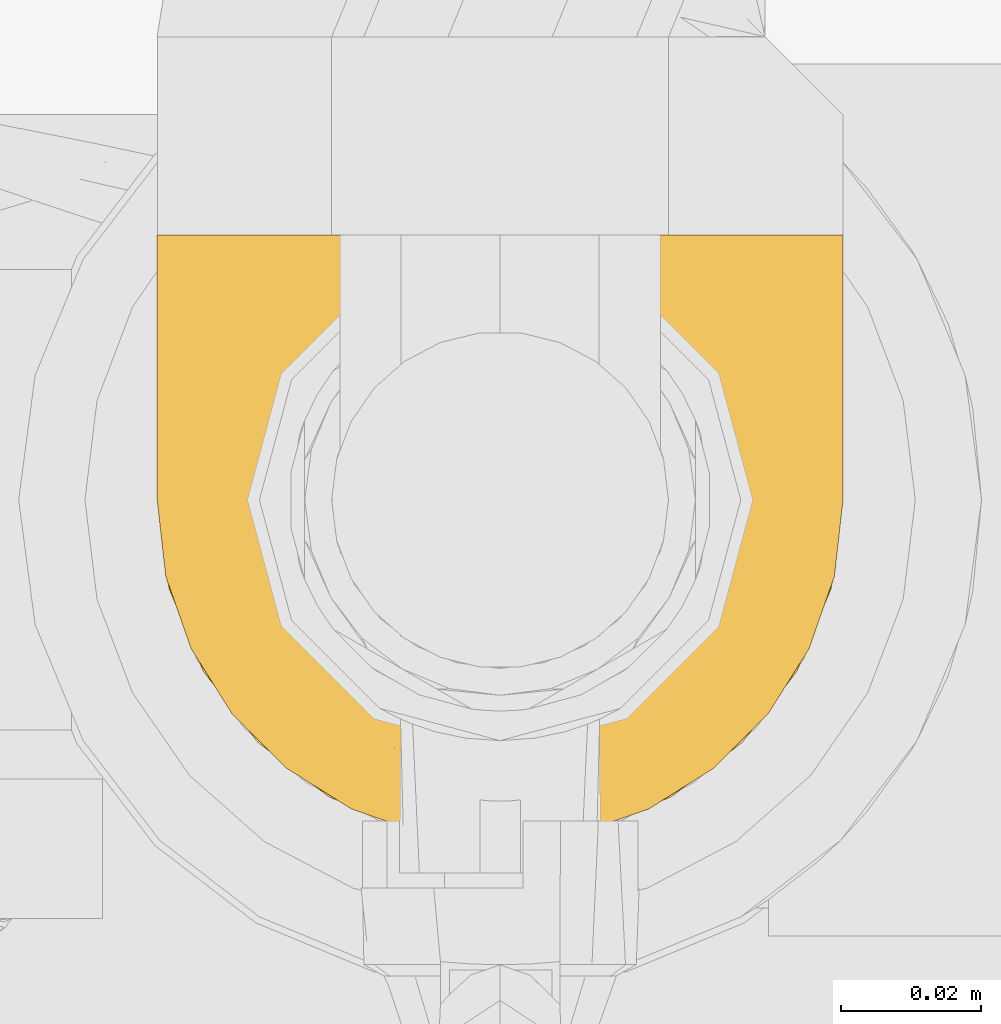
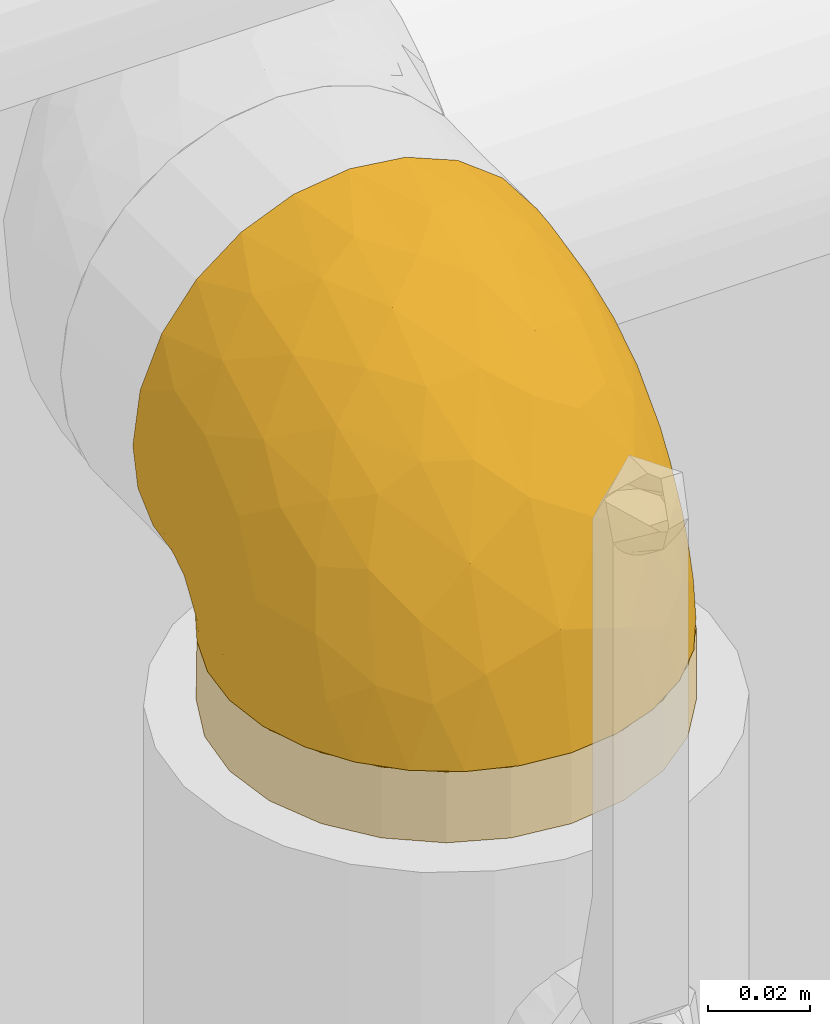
# One storey, part 19 of 94: 2 coverings.
"""IFC2X3 building model written with IfcOpenShell, lengths in millimetres."""

import ifcopenshell
import ifcopenshell.guid

model = None  # the IFC model being written
_history = None  # IfcOwnerHistory: only IFC2X3 demands one
_inside = {}  # id of a spatial element -> (the spatial element, [elements in it])
_under = {}  # id of a project, library or spatial element -> (it, [spatial elements below it])
_declared = {}  # id of a project -> (the project, [libraries it declares])
_typed = {}  # id of a type object -> (the type object, [elements of that type])
_made_of = {}  # id of a material, layer set ... -> (it, [elements and type objects made of it])


def new_model(schema):
    """Start an empty IFC model of exactly this schema.

    Asked for "IFC4X3", IfcOpenShell would pick the latest addendum, in which some entities
    have other attributes; the version numbers below select the first issue.
    IFC2X3 requires an IfcOwnerHistory on every rooted entity: one is made here for all.
    """
    global model, _history
    if schema == "IFC4X3":
        model = ifcopenshell.file(schema_version=(4, 3, 0, 0))
    else:
        model = ifcopenshell.file(schema=schema)
    _inside.clear()
    _under.clear()
    _declared.clear()
    _typed.clear()
    _made_of.clear()
    _history = None
    if model.schema == "IFC2X3":
        org = make("IfcOrganization", Name="unknown")
        user = make(
            "IfcPersonAndOrganization",
            ThePerson=make("IfcPerson", FamilyName="unknown"),
            TheOrganization=org,
        )
        app = make(
            "IfcApplication",
            ApplicationDeveloper=org,
            Version="unknown",
            ApplicationFullName="unknown",
            ApplicationIdentifier="unknown",
        )
        _history = make(
            "IfcOwnerHistory",
            OwningUser=user,
            OwningApplication=app,
            ChangeAction="ADDED",
            CreationDate=0,
        )
    return model


def make(cls, **values):
    """One entity of the class cls with the attributes given. An attribute that is None is left unset."""
    return model.create_entity(
        cls, **{name: value for name, value in values.items() if value is not None}
    )


def entity(cls, *values):
    """Any entity or typed value of the class cls, its attributes in the order of the schema. None: left unset."""
    e = model.create_entity(cls)
    for i, value in enumerate(values):
        if value is not None:
            e[i] = value
    return e


def rooted(cls, **values):
    """An entity with a GlobalId (a new one), such as an element, a storey or a relation."""
    return make(cls, GlobalId=ifcopenshell.guid.new(), OwnerHistory=_history, **values)


def si_unit(unit_type, name, prefix=None):
    """IfcSIUnit, for example si_unit("LENGTHUNIT", "METRE", prefix="MILLI")."""
    return make("IfcSIUnit", UnitType=unit_type, Prefix=prefix, Name=name)


def converted_unit(unit_type, name, factor, base, dimensions=None, offset=None):
    """IfcConversionBasedUnit, such as the inch: factor (a typed value) times the base unit."""
    return make(
        "IfcConversionBasedUnit"
        if offset is None
        else "IfcConversionBasedUnitWithOffset",
        ConversionOffset=offset,
        Dimensions=None
        if dimensions is None
        else entity("IfcDimensionalExponents", *dimensions),
        UnitType=unit_type,
        Name=name,
        ConversionFactor=make(
            "IfcMeasureWithUnit", ValueComponent=factor, UnitComponent=base
        ),
    )


def derived_unit(unit_type, elements):
    """IfcDerivedUnit: a product of units, each with its exponent."""
    return make(
        "IfcDerivedUnit",
        Elements=[
            make("IfcDerivedUnitElement", Unit=unit, Exponent=power)
            for unit, power in elements
        ],
        UnitType=unit_type,
    )


def assignment(units):
    """IfcUnitAssignment: the units of a project."""
    return None if units is None else make("IfcUnitAssignment", Units=units)


def point(xyz):
    """IfcCartesianPoint."""
    return None if xyz is None else make("IfcCartesianPoint", Coordinates=xyz)


def direction(xyz):
    """IfcDirection."""
    return None if xyz is None else make("IfcDirection", DirectionRatios=xyz)


def frame(location, z_axis=None, x_axis=None):
    """IfcAxis2Placement3D, a coordinate frame: its origin and axes. An axis left out is left unset."""
    return make(
        "IfcAxis2Placement3D",
        Location=point(location),
        Axis=direction(z_axis),
        RefDirection=direction(x_axis),
    )


def origin():
    """The frame at (0, 0, 0) with its axes left unset."""
    return frame((0.0, 0.0, 0.0))


def place(relative_to, where):
    """IfcLocalPlacement: puts the frame where relative to a parent placement (None: the world)."""
    return make(
        "IfcLocalPlacement", PlacementRelTo=relative_to, RelativePlacement=where
    )


def context(
    kind, dimensions, precision=None, world=None, true_north=None, identifier=None
):
    """IfcGeometricRepresentationContext, for example the 3D "Model" context."""
    return make(
        "IfcGeometricRepresentationContext",
        ContextIdentifier=identifier,
        ContextType=kind,
        CoordinateSpaceDimension=dimensions,
        Precision=precision,
        WorldCoordinateSystem=world,
        TrueNorth=true_north,
    )


def subcontext(parent, identifier, kind, view, scale=None):
    """IfcGeometricRepresentationSubContext, for example "Body" below "Model"."""
    return make(
        "IfcGeometricRepresentationSubContext",
        ContextIdentifier=identifier,
        ContextType=kind,
        ParentContext=parent,
        TargetScale=scale,
        TargetView=view,
    )


def project(units=None, contexts=None):
    """IfcProject with its units and contexts."""
    return rooted(
        "IfcProject",
        Name="project",
        RepresentationContexts=contexts,
        UnitsInContext=assignment(units),
    )


def spatial(cls, under=None, at=None, **own):
    """A site, building, storey or space (cls), placed at a placement, below another one or the project."""
    s = rooted(cls, ObjectPlacement=at, **own)
    if under is not None:
        _under.setdefault(under.id(), (under, []))[1].append(s)
    return s


def faces_of(points, faces, orient=None, outer=None):
    """IfcFace entities. A face is a list of loops; a loop is a list of indices into points, from 0.

    orient and outer hold one flag for each loop. By default every Orientation is true, the
    first loop of a face is its IfcFaceOuterBound and the others are IfcFaceBound.
    """
    made = []
    for i, loops in enumerate(faces):
        bounds = []
        for j, loop in enumerate(loops):
            is_outer = j == 0 if outer is None else outer[i][j]
            bounds.append(
                make(
                    "IfcFaceOuterBound" if is_outer else "IfcFaceBound",
                    Bound=make("IfcPolyLoop", Polygon=[points[k] for k in loop]),
                    Orientation=True if orient is None else orient[i][j],
                )
            )
        made.append(make("IfcFace", Bounds=bounds))
    return made


def faceted_brep(points, faces, orient=None, outer=None, voids=None):
    """IfcFacetedBrep: a solid bounded by flat faces; with voids (closed shells), ...WithVoids."""
    shared = [point(p) for p in points]
    hull = make("IfcClosedShell", CfsFaces=faces_of(shared, faces, orient, outer))
    if voids is None:
        return make("IfcFacetedBrep", Outer=hull)
    return make(
        "IfcFacetedBrepWithVoids",
        Outer=hull,
        Voids=[
            make(cls, CfsFaces=faces_of(shared, fs, o, b)) for cls, fs, o, b in voids
        ],
    )


def shape(context_of_items, identifier, shape_type, items):
    """IfcShapeRepresentation: the items that make up one representation, for example the "Body"."""
    return make(
        "IfcShapeRepresentation",
        ContextOfItems=context_of_items,
        RepresentationIdentifier=identifier,
        RepresentationType=shape_type,
        Items=items,
    )


def material(Name=None, Category=None):
    """IfcMaterial."""
    return make("IfcMaterial", Name=Name, Category=Category)


def made_of(thing, what):
    """Note that an element or type object is made of a material, layer set ...; save() writes the relation."""
    if what is not None:
        _made_of.setdefault(what.id(), (what, []))[1].append(thing)
    return thing


def element(
    cls,
    number,
    at=None,
    inside=None,
    cuts=None,
    type_object=None,
    material=None,
    context=None,
    identifier="Body",
    shape_type=None,
    held_by="IfcProductDefinitionShape",
    body=None,
    shapes=None,
    **own,
):
    """One element of the class cls, such as IfcWall. Its Tag is "e" and its number.

    at: its placement. inside: the storey or other place that contains it. cuts: it is an
    opening in that element (IfcRelVoidsElement). A single representation is given by context,
    identifier, shape_type and body (its items); several are given by shapes. held_by: the class
    of the entity that holds the representations. save() writes the other relations.
    """
    e = rooted(cls, Tag="e%d" % number, ObjectPlacement=at, **own)
    if body is not None:
        shapes = [shape(context, identifier, shape_type, body)]
    if shapes is not None:
        e.Representation = make(held_by, Representations=shapes)
    if inside is not None:
        _inside.setdefault(inside.id(), (inside, []))[1].append(e)
    if cuts is not None:
        rooted(
            "IfcRelVoidsElement", RelatingBuildingElement=cuts, RelatedOpeningElement=e
        )
    if type_object is not None:
        _typed.setdefault(type_object.id(), (type_object, []))[1].append(e)
    return made_of(e, material)


def aggregate(whole, parts):
    """IfcRelAggregates: a whole, such as a stair, and the parts it consists of."""
    return rooted("IfcRelAggregates", RelatingObject=whole, RelatedObjects=parts)


def save(model, path):
    """Write the relations noted so far, then the file.

    IfcRelAggregates (storeys below a building ...), IfcRelContainedInSpatialStructure (elements
    in a storey), IfcRelDefinesByType, IfcRelAssociatesMaterial and IfcRelDeclares: one each for
    every whole, place, type object, material and project.
    """
    for whole, parts in _under.values():
        aggregate(whole, parts)
    for where, things in _inside.values():
        rooted(
            "IfcRelContainedInSpatialStructure",
            RelatedElements=things,
            RelatingStructure=where,
        )
    for kind, things in _typed.values():
        rooted("IfcRelDefinesByType", RelatedObjects=things, RelatingType=kind)
    for what, things in _made_of.values():
        rooted("IfcRelAssociatesMaterial", RelatedObjects=things, RelatingMaterial=what)
    for by, libraries in _declared.values():
        rooted("IfcRelDeclares", RelatingContext=by, RelatedDefinitions=libraries)
    model.write(path)


model = new_model("IFC2X3")

# Units and contexts
model_context = context("Model", 3, precision=0.01, world=origin(), true_north=direction((6.123031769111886e-17, 1.0)))
body_context = subcontext(model_context, "Body", "Model", "MODEL_VIEW")
ifc_project = project(units=[si_unit("LENGTHUNIT", "METRE", prefix="MILLI"), si_unit("AREAUNIT", "SQUARE_METRE"), si_unit("VOLUMEUNIT", "CUBIC_METRE"), converted_unit("PLANEANGLEUNIT", "DEGREE", entity("IfcRatioMeasure", 0.017453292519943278), si_unit("PLANEANGLEUNIT", "RADIAN"), dimensions=[0, 0, 0, 0, 0, 0, 0]), si_unit("MASSUNIT", "GRAM", prefix="KILO"), derived_unit("MASSDENSITYUNIT", [(si_unit("MASSUNIT", "GRAM", prefix="KILO"), 1), (si_unit("LENGTHUNIT", "METRE"), -3)]), derived_unit("IONCONCENTRATIONUNIT", [(si_unit("MASSUNIT", "GRAM", prefix="KILO"), 1), (si_unit("LENGTHUNIT", "METRE"), -3)]), derived_unit("MOMENTOFINERTIAUNIT", [(si_unit("LENGTHUNIT", "METRE"), 4)]), si_unit("TIMEUNIT", "SECOND"), si_unit("FREQUENCYUNIT", "HERTZ"), si_unit("THERMODYNAMICTEMPERATUREUNIT", "DEGREE_CELSIUS"), derived_unit("THERMALTRANSMITTANCEUNIT", [(si_unit("MASSUNIT", "GRAM", prefix="KILO"), 1), (si_unit("THERMODYNAMICTEMPERATUREUNIT", "KELVIN"), -1), (si_unit("TIMEUNIT", "SECOND"), -3)]), derived_unit("THERMALCONDUCTANCEUNIT", [(si_unit("MASSUNIT", "GRAM", prefix="KILO"), 1), (si_unit("THERMODYNAMICTEMPERATUREUNIT", "KELVIN"), -1), (si_unit("TIMEUNIT", "SECOND"), -3), (si_unit("LENGTHUNIT", "METRE"), 1)]), derived_unit("VOLUMETRICFLOWRATEUNIT", [(si_unit("LENGTHUNIT", "METRE"), 3), (si_unit("TIMEUNIT", "SECOND"), -1)]), derived_unit("MASSFLOWRATEUNIT", [(si_unit("MASSUNIT", "GRAM", prefix="KILO"), 1), (si_unit("TIMEUNIT", "SECOND"), -1)]), derived_unit("ROTATIONALFREQUENCYUNIT", [(si_unit("TIMEUNIT", "SECOND"), -1)]), si_unit("ELECTRICCURRENTUNIT", "AMPERE"), si_unit("ELECTRICVOLTAGEUNIT", "VOLT"), si_unit("POWERUNIT", "WATT"), si_unit("FORCEUNIT", "NEWTON", prefix="KILO"), si_unit("ILLUMINANCEUNIT", "LUX"), si_unit("LUMINOUSFLUXUNIT", "LUMEN"), si_unit("LUMINOUSINTENSITYUNIT", "CANDELA"), derived_unit("USERDEFINED", [(si_unit("MASSUNIT", "GRAM", prefix="KILO"), -1), (si_unit("LENGTHUNIT", "METRE"), -2), (si_unit("TIMEUNIT", "SECOND"), 3), (si_unit("LUMINOUSFLUXUNIT", "LUMEN"), 1)]), derived_unit("USERDEFINED", [(si_unit("MASSUNIT", "GRAM", prefix="KILO"), 1), (si_unit("TIMEUNIT", "SECOND"), -3), (si_unit("LENGTHUNIT", "METRE"), 3), (si_unit("ELECTRICCURRENTUNIT", "AMPERE"), -2)]), derived_unit("SOUNDPOWERUNIT", [(si_unit("MASSUNIT", "GRAM", prefix="KILO"), 1), (si_unit("TIMEUNIT", "SECOND"), -3), (si_unit("LENGTHUNIT", "METRE"), 2)]), derived_unit("SOUNDPRESSUREUNIT", [(si_unit("MASSUNIT", "GRAM", prefix="KILO"), 1), (si_unit("LENGTHUNIT", "METRE"), -1), (si_unit("TIMEUNIT", "SECOND"), -2)]), derived_unit("LINEARVELOCITYUNIT", [(si_unit("LENGTHUNIT", "METRE"), 1), (si_unit("TIMEUNIT", "SECOND"), -1)]), si_unit("PRESSUREUNIT", "PASCAL"), derived_unit("USERDEFINED", [(si_unit("MASSUNIT", "GRAM", prefix="KILO"), 1), (si_unit("LENGTHUNIT", "METRE"), -2), (si_unit("TIMEUNIT", "SECOND"), -2)]), derived_unit("LINEARFORCEUNIT", [(si_unit("MASSUNIT", "GRAM", prefix="KILO"), 1), (si_unit("TIMEUNIT", "SECOND"), -2)]), derived_unit("PLANARFORCEUNIT", [(si_unit("MASSUNIT", "GRAM", prefix="KILO"), 1), (si_unit("LENGTHUNIT", "METRE"), -1), (si_unit("TIMEUNIT", "SECOND"), -2)]), derived_unit("SPECIFICHEATCAPACITYUNIT", [(si_unit("THERMODYNAMICTEMPERATUREUNIT", "KELVIN"), -1), (si_unit("LENGTHUNIT", "METRE"), 2), (si_unit("TIMEUNIT", "SECOND"), -2)]), derived_unit("HEATINGVALUEUNIT", [(si_unit("LENGTHUNIT", "METRE"), 2), (si_unit("TIMEUNIT", "SECOND"), -2)]), derived_unit("VAPORPERMEABILITYUNIT", [(si_unit("LENGTHUNIT", "METRE"), -1), (si_unit("TIMEUNIT", "SECOND"), 1)]), derived_unit("DYNAMICVISCOSITYUNIT", [(si_unit("MASSUNIT", "GRAM", prefix="KILO"), 1), (si_unit("TIMEUNIT", "SECOND"), -1), (si_unit("LENGTHUNIT", "METRE"), -1)]), derived_unit("THERMALEXPANSIONCOEFFICIENTUNIT", [(si_unit("THERMODYNAMICTEMPERATUREUNIT", "KELVIN"), -1)]), derived_unit("MODULUSOFELASTICITYUNIT", [(si_unit("MASSUNIT", "GRAM", prefix="KILO"), 1), (si_unit("LENGTHUNIT", "METRE"), -1), (si_unit("TIMEUNIT", "SECOND"), -2)]), derived_unit("ISOTHERMALMOISTURECAPACITYUNIT", [(si_unit("LENGTHUNIT", "METRE"), 3), (si_unit("MASSUNIT", "GRAM", prefix="KILO"), -1)]), derived_unit("MOISTUREDIFFUSIVITYUNIT", [(si_unit("TIMEUNIT", "SECOND"), -1), (si_unit("LENGTHUNIT", "METRE"), 2)])], contexts=[model_context])

# Site, building, storey
site_placement = place(None, origin())
site = spatial("IfcSite", under=ifc_project, at=site_placement, Name="Default", CompositionType="ELEMENT")
building_placement = place(site_placement, origin())
building = spatial("IfcBuilding", under=site, at=building_placement, CompositionType="ELEMENT")
storey_placement = place(building_placement, origin())
storey = spatial("IfcBuildingStorey", under=building, at=storey_placement, Name="Niveau 0", CompositionType="ELEMENT", Elevation=0.0)

# Coverings
ifc_material = material(Name="Isolation - Laine minérale")
covering_1_placement = place(storey_placement, frame((-9522.871137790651, 9871.745273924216, 2713.5952722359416)))
element("IfcCovering", 1, at=covering_1_placement, inside=storey, material=ifc_material, Name="Isolation des canalisations:Laine minérale", ObjectType="Isolation des canalisations:Laine minérale", PredefinedType="INSULATION", context=body_context, shape_type="Brep", body=[
    faceted_brep([(3.26933639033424, 38.009492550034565, -18.59527223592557), (1.5952722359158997, 50.725272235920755, -18.595272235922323), (3.26933639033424, 63.441051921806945, -18.595272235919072), (8.17744414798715, 75.29027223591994, -18.595272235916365), (15.985116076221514, 85.46542839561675, -18.59527223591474), (26.160272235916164, 93.27310032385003, -18.595272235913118), (38.00949255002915, 98.18120808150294, -18.595272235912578), (50.72527223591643, 99.85527223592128, -18.595272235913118), (63.4410519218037, 98.18120808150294, -18.5952722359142), (75.29027223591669, 93.27310032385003, -18.595272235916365), (85.46542839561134, 85.46542839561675, -18.595272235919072), (93.2731003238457, 75.29027223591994, -18.595272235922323), (98.18120808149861, 63.441051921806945, -18.59527223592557), (99.85527223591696, 50.725272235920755, -18.59527223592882), (98.18120808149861, 38.009492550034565, -18.595272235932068), (93.2731003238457, 26.16027223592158, -18.595272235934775), (85.46542839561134, 15.985116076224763, -18.5952722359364), (75.29027223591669, 8.17744414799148, -18.595272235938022), (63.4410519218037, 3.2693363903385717, -18.595272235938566), (50.72527223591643, 1.5952722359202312, -18.595272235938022), (38.00949255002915, 3.2693363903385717, -18.595272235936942), (26.160272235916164, 8.17744414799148, -18.595272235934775), (15.985116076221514, 15.985116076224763, -18.595272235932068), (8.17744414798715, 26.16027223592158, -18.59527223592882), (1.5952722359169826, 50.72527223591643, -1.5952722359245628), (3.269336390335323, 38.00949255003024, -1.5952722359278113), (8.177444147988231, 26.160272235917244, -1.5952722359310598), (15.985116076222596, 15.98511607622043, -1.5952722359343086), (26.160272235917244, 8.17744414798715, -1.5952722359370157), (38.00949255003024, 3.26933639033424, -1.5952722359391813), (50.72527223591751, 1.5952722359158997, -1.5952722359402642), (63.441051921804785, 3.26933639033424, -1.5952722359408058), (75.29027223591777, 8.17744414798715, -1.5952722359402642), (85.46542839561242, 15.98511607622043, -1.59527223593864), (93.27310032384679, 26.160272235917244, -1.5952722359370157), (98.18120808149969, 38.00949255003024, -1.5952722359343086), (99.85527223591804, 50.72527223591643, -1.5952722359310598), (98.65694811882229, 61.510046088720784, -1.5952722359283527), (95.12737949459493, 71.75405657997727, -1.5952722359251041), (89.4379998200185, 80.975588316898, -1.595272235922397), (81.86619226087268, 88.72527223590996, -1.5952722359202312), (19.58435221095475, 88.72527223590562, -1.5952722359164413), (12.012544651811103, 80.97558831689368, -1.595272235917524), (6.323164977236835, 71.75405657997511, -1.5952722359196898), (2.793596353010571, 61.510046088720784, -1.5952722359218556), (26.531823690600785, 93.4854633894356, -6.355463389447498), (34.19020495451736, 96.98917230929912, -9.859172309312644), (42.33445912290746, 99.13344463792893, -12.003444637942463), (50.72527223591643, 99.85527223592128, -12.72527223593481), (59.11608534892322, 99.13344463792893, -12.003444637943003), (67.26033951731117, 96.98917230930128, -9.859172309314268), (74.91872078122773, 93.48546338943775, -6.355463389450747)], [[[0, 1, 2, 3, 4, 5, 6, 7, 8, 9, 10, 11, 12, 13, 14, 15, 16, 17, 18, 19, 20, 21, 22, 23]], [[24, 25, 26, 27, 28, 29, 30, 31, 32, 33, 34, 35, 36, 37, 38, 39, 40, 41, 42, 43, 44]], [[13, 36, 35, 14]], [[14, 35, 34, 15]], [[15, 34, 33, 16]], [[17, 32, 31, 18]], [[18, 31, 30, 19]], [[16, 33, 32, 17]], [[19, 30, 29, 20]], [[20, 29, 28, 21]], [[21, 28, 27, 22]], [[23, 26, 25, 0]], [[0, 25, 24, 1]], [[22, 27, 26, 23]], [[1, 24, 44]], [[44, 43, 2]], [[42, 3, 43]], [[1, 44, 2]], [[3, 2, 43]], [[4, 3, 42]], [[42, 41, 4]], [[45, 5, 4]], [[46, 47, 6]], [[45, 46, 5]], [[5, 46, 6]], [[7, 6, 47]], [[48, 7, 47]], [[45, 4, 41]], [[49, 50, 8]], [[9, 51, 10]], [[50, 51, 9]], [[48, 49, 7]], [[7, 49, 8]], [[50, 9, 8]], [[51, 40, 10]], [[11, 39, 38]], [[38, 37, 12]], [[36, 13, 37]], [[10, 39, 11]], [[12, 11, 38]], [[13, 12, 37]], [[39, 10, 40]], [[51, 50, 49, 48, 47, 46, 45, 41, 40]]]),
])
covering_2_placement = place(storey_placement, frame((-9522.89113779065, 9871.725273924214, 2710.4047277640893)))
element("IfcCovering", 2, at=covering_2_placement, inside=storey, material=ifc_material, Name="Isolation des canalisations:Laine minérale", ObjectType="Isolation des canalisations:Laine minérale", PredefinedType="INSULATION", context=body_context, shape_type="Brep", body=[
    faceted_brep([(95.02415814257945, 29.412134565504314, 1.5952722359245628), (89.1663101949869, 20.093252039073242, 1.5952722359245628), (81.38263886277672, 12.312548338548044, 1.5952722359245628), (72.06354573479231, 6.459227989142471, 1.5952722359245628), (61.67593083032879, 2.826140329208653, 1.5952722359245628), (50.74527223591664, 1.5952722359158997, 1.5952722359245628), (39.802903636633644, 2.8288129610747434, 1.5952722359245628), (29.412134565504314, 6.466386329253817, 1.5952722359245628), (20.093252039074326, 12.324234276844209, 1.5952722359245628), (12.312548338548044, 20.107905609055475, 1.5952722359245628), (6.459227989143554, 29.426998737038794, 1.5952722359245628), (2.8261403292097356, 39.81461364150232, 1.5952722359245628), (1.5952722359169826, 50.74527223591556, 1.5952722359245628), (2.765001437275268, 61.40435822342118, 1.5952722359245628), (6.216868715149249, 71.55257335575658, 1.5952722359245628), (11.785042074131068, 80.70896636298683, 1.5952722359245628), (19.19437336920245, 88.43165280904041, 1.5952722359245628), (21.638642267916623, 88.43165280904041, 1.5952722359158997), (23.415694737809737, 88.43165280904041, 1.5952722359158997), (25.192747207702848, 88.43165280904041, 1.5952722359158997), (26.692340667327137, 88.43165280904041, 1.5952722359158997), (28.191934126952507, 88.43165280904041, 1.5952722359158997), (31.191121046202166, 88.43165280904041, 1.5952722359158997), (34.19030796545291, 88.43165280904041, 1.5952722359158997), (37.18949488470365, 88.43165280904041, 1.5952722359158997), (40.18868180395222, 88.43165280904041, 1.5952722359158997), (41.688275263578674, 88.43165280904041, 1.5952722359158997), (43.18786872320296, 88.43165280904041, 1.5952722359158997), (45.63213762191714, 88.43165280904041, 1.5952722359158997), (48.07640652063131, 88.43165280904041, 1.5952722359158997), (50.52067541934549, 88.43165280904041, 1.5952722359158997), (52.96494431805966, 88.43165280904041, 1.5952722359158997), (55.40921321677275, 88.43165280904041, 1.5952722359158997), (57.853482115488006, 88.43165280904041, 1.5952722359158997), (60.297751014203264, 88.43165280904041, 1.5952722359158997), (62.742019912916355, 88.43165280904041, 1.5952722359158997), (65.18628881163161, 88.43165280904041, 1.5952722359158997), (67.63055771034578, 88.43165280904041, 1.5952722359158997), (70.07482660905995, 88.43165280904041, 1.5952722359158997), (72.51909550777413, 88.43165280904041, 1.5952722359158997), (74.96336440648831, 88.43165280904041, 1.5952722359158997), (77.40763330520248, 88.43165280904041, 1.5952722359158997), (79.85190220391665, 88.43165280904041, 1.5952722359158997), (82.29617110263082, 88.43165280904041, 1.5952722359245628), (89.71827412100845, 80.69235262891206, 1.5952722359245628), (95.2836857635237, 71.53113811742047, 1.5952722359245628), (98.73008326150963, 61.3839004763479, 1.5952722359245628), (99.8952722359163, 50.74527223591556, 1.5952722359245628), (98.66173151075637, 39.80290363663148, 1.5952722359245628), (11.777056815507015, 88.74527223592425, 9.641963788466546), (6.211862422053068, 88.74527223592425, 18.798688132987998), (2.763298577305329, 88.74527223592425, 28.94385431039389), (1.5952722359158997, 88.74527223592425, 39.59527223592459), (3.2700178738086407, 88.74527223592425, 52.31622830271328), (8.180123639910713, 88.74527223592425, 64.17027223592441), (15.990973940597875, 88.74527223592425, 74.34957053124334), (26.17027223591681, 88.74527223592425, 82.16042083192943), (38.0243161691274, 88.74527223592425, 87.07052659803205), (50.74527223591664, 88.74527223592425, 88.74527223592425), (63.46622830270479, 88.74527223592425, 87.07052659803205), (75.32027223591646, 88.74527223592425, 82.16042083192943), (85.4995705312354, 88.74527223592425, 74.34957053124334), (93.31042083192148, 88.74527223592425, 64.17027223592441), (98.22052659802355, 88.74527223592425, 52.31622830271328), (99.8952722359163, 88.74527223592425, 39.59527223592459), (98.72724589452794, 88.74527223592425, 28.94385431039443), (95.2786820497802, 88.74527223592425, 18.798688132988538), (89.71348765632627, 88.74527223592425, 9.641963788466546), (82.29617110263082, 88.74527223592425, 1.9088916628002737), (79.85190220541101, 88.74527223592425, 1.9088916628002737), (78.35230874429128, 88.74527223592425, 1.9088916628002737), (76.3803775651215, 88.74527223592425, 1.9088916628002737), (74.40844638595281, 88.74527223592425, 1.9088916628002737), (72.43651520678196, 88.74527223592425, 1.9088916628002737), (70.46458402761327, 88.74527223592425, 1.9088916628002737), (68.4926528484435, 88.74527223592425, 1.9088916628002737), (66.52072166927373, 88.74527223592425, 1.9088916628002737), (64.54879049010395, 88.74527223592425, 1.9088916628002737), (62.57685931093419, 88.74527223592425, 1.9088916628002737), (60.60492813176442, 88.74527223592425, 1.9088916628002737), (58.632996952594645, 88.74527223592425, 1.9088916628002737), (56.66106577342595, 88.74527223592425, 1.9088916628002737), (54.6891345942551, 88.74527223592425, 1.9088916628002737), (52.71720341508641, 88.74527223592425, 1.9088916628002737), (50.74527223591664, 88.74527223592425, 1.9088916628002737), (48.773341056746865, 88.74527223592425, 1.908891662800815), (46.80140987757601, 88.74527223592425, 1.9088916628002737), (44.82947869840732, 88.74527223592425, 1.9088916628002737), (42.85754751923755, 88.74527223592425, 1.9088916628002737), (40.88561634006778, 88.74527223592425, 1.9088916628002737), (38.913685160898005, 88.74527223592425, 1.9088916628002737), (36.94175398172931, 88.74527223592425, 1.9088916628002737), (34.96982280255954, 88.74527223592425, 1.9088916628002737), (31.97063588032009, 88.74527223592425, 1.9088916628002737), (28.971448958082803, 88.74527223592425, 1.9088916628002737), (26.5271800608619, 88.74527223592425, 1.9088916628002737), (24.082911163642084, 88.74527223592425, 1.908891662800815), (21.638642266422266, 88.74527223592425, 1.9088916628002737), (19.19437336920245, 88.74527223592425, 1.908891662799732), (53.7533397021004, 88.53090125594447, 1.8241875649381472), (51.832765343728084, 88.52210831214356, 1.8156242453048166), (61.47290163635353, 88.52122178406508, 1.8147227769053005), (63.56282540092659, 88.5277799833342, 1.821224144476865), (48.00102702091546, 88.5409253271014, 1.8331787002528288), (77.2499939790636, 88.53506454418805, 1.828016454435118), (80.6991383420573, 88.49130573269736, 1.7792781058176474), (42.43807145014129, 88.51810292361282, 1.8114926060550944), (22.860776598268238, 88.52350981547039, 1.8170346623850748), (24.700216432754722, 88.52548149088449, 1.8189889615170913), (71.37008955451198, 88.5165327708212, 1.809830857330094), (73.40383885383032, 88.52674320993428, 1.820221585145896), (44.41000264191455, 88.5046900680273, 1.796462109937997), (37.92771907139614, 88.52964682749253, 1.8230063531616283), (39.81308540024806, 88.53317608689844, 1.8262968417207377), (35.95578792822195, 88.51585328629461, 1.8091041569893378), (49.75930651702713, 88.52914218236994, 1.8225274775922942), (21.027574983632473, 88.5259180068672, 1.8194169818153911), (55.67510065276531, 88.5366490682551, 1.8294378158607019), (67.50668767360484, 88.5374788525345, 1.8301744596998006), (65.61454699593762, 88.53273195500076, 1.8258883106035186), (34.10458092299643, 88.53426299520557, 1.8272900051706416), (57.55217518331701, 88.53370000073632, 1.8267767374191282), (79.10210557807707, 88.52350981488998, 1.8170346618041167), (75.39441218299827, 88.53493173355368, 1.8278964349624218), (82.29617110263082, 88.5235098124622, 1.8170346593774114), (82.29617110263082, 88.49487979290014, 1.747915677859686), (82.2961711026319, 88.46624977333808, 1.6787966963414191), (19.19437336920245, 88.5235098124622, 1.8170346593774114), (19.19437336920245, 88.59262879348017, 1.8456646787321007), (19.194373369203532, 88.66174777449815, 1.8742946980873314), (32.212157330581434, 88.51000647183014, 1.8026539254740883), (69.43559223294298, 88.5304248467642, 1.823740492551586), (46.24828797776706, 88.52246762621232, 1.81598755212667), (59.49061335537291, 88.52470424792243, 1.8182226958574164), (29.419252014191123, 88.50579329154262, 1.7977740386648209), (27.44213716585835, 88.52744143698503, 1.820897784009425), (82.29617110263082, 88.66174777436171, 1.8742946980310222), (82.29617110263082, 88.59262879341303, 1.845664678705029), (19.19437336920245, 88.46624977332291, 1.6787966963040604), (19.194373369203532, 88.49487979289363, 1.7479156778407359), (4.210283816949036, 85.22080157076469, 23.495219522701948), (8.74417984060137, 85.93611072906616, 13.747756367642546), (4.210283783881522, 81.07807843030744, 22.409779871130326), (9.955583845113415, 83.13289242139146, 10.562522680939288), (1.5952722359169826, 79.24527223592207, 37.049754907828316), (1.5952722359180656, 81.28890223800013, 37.59734391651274), (1.5952722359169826, 55.83630689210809, 20.595272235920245), (2.935497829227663, 66.39553001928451, 16.020149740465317), (4.213452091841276, 67.94040403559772, 9.261677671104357), (1.5952722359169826, 69.7452722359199, 34.50423757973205), (9.405305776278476, 80.67378389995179, 9.667897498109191), (9.963487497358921, 79.78892094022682, 7.202912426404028), (2.9356418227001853, 74.32109358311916, 23.94474674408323), (4.213452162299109, 66.85470593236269, 5.119390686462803), (8.750654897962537, 76.60336361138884, 4.402893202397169), (5.690627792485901, 79.64911936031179, 17.541506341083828), (1.5952722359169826, 52.74320051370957, 9.051642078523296), (1.5952722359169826, 53.290789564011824, 11.095272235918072), (4.482619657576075, 73.61168493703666, 16.72885944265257), (1.5952722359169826, 62.790789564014, 27.549754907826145), (5.766057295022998, 73.87988529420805, 12.071559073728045), (2.6117250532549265, 75.3291367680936, 47.62395095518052), (2.6575317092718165, 65.91074185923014, 44.00144112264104), (11.131578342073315, 53.84761415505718, 58.899698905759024), (20.824647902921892, 59.13651173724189, 72.66771487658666), (11.751954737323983, 71.16612245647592, 67.20155656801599), (5.33659242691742, 67.00545271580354, 54.07984229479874), (5.33659286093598, 78.88051287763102, 57.54110754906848), (50.74527223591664, 37.51978749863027, 72.10110329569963), (50.74527223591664, 61.81444117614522, 84.4798476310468), (40.3397395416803, 53.87520138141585, 80.24801351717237), (9.12424327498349, 25.78494399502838, 13.851436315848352), (4.35104531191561, 36.244182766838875, 15.165285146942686), (32.6469542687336, 29.562882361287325, 60.77765845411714), (23.76890934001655, 30.77068194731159, 55.385836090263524), (35.61531809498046, 15.292222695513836, 43.89737524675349), (41.69613385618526, 71.31385843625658, 86.12648113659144), (30.50981773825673, 47.24102741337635, 73.23168363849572), (21.748430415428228, 43.50389303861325, 64.7473857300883), (20.824647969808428, 75.28985257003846, 77.40373146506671), (31.9363827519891, 67.10273039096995, 82.14716981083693), (15.984346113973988, 37.099200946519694, 52.82911549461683), (9.50970334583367, 44.515176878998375, 48.878965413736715), (11.405769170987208, 33.70477633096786, 40.607220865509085), (3.723532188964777, 44.051694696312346, 28.76995319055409), (9.124242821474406, 30.04408126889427, 27.448445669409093), (15.984347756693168, 18.312338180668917, 19.800365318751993), (50.74527223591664, 5.860696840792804, 28.52610329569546), (34.505351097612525, 7.041406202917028, 22.71562192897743), (18.53593481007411, 25.61446965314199, 42.31748570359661), (24.58819413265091, 15.886915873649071, 33.6838277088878), (24.58819389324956, 10.600409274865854, 16.806973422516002), (39.07585882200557, 38.50378416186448, 71.0785805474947), (42.346184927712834, 25.345180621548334, 60.332491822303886), (2.5632520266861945, 53.16350413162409, 33.37332146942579), (50.74527223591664, 18.23944117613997, 52.82075697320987), (4.72244931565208, 52.69469876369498, 43.46542968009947), (69.55416102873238, 58.175892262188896, 79.2001746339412), (59.58510784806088, 71.7009127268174, 86.24488809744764), (59.865425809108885, 54.574333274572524, 80.83807017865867), (66.13789702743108, 42.49805076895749, 72.52816019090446), (69.55416221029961, 75.0623548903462, 83.87397883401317), (85.49332197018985, 24.525141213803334, 35.798660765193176), (78.98858976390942, 25.786342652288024, 48.02046276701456), (76.8874308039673, 15.878231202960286, 33.68736739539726), (85.49294527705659, 37.089792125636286, 52.83844921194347), (78.28666517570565, 35.7133620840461, 59.75598123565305), (97.13479117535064, 36.23150879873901, 15.170016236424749), (98.9530358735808, 70.53804152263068, 45.55141709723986), (99.8952722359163, 69.7452722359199, 34.50423757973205), (99.8952722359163, 79.24527223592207, 37.049754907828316), (66.97173870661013, 7.036299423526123, 22.71467774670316), (80.66589652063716, 69.2408611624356, 76.07714087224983), (92.35692696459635, 30.030512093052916, 27.45465165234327), (92.35692651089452, 25.770245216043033, 13.854008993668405), (89.7385894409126, 76.87540408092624, 68.47065883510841), (96.15395178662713, 74.00473445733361, 56.45843349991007), (79.62483877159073, 48.41047025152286, 68.08854506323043), (89.73859028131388, 62.62553049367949, 64.29272071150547), (59.50815922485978, 31.2207767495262, 66.01125638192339), (68.83452868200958, 29.56034539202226, 60.78019542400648), (99.01263503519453, 79.82666983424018, 48.01911236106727), (76.88743104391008, 10.591274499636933, 16.809109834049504), (65.85652255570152, 15.28724730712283, 43.900853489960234), (85.49294363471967, 18.29950680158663, 19.803681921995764), (97.76388503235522, 44.049870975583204, 28.786726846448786), (99.8952722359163, 55.83630689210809, 20.595272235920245), (98.78930951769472, 54.235362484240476, 35.485066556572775), (99.8952722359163, 62.790789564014, 27.549754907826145), (99.89527223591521, 52.74320051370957, 9.051642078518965), (99.8952722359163, 53.290789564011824, 11.095272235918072), (91.50386042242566, 48.41211537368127, 53.16291239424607), (96.4268312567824, 64.14304703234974, 52.05308452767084), (93.14991945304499, 40.10640265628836, 41.401037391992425), (99.08337182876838, 62.890734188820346, 40.721221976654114), (86.0910755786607, 47.67277833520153, 60.91677547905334), (96.67816905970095, 55.389558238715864, 45.94061161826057), (97.2802602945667, 81.0780784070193, 22.409778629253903), (95.72662397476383, 78.26566497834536, 16.46425424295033), (98.5546584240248, 74.32072912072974, 23.943292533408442), (97.28026045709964, 85.22080145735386, 23.495218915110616), (92.74636428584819, 85.93611080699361, 13.74775580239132), (91.53641117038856, 83.13257230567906, 10.564867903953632), (90.11275627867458, 82.68198005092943, 7.656624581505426), (97.00519514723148, 73.61706381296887, 16.72348133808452), (91.54965419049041, 79.75777141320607, 7.216517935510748), (97.28427045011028, 67.91845358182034, 9.263185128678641), (97.28427059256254, 66.83334757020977, 5.1195933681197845), (92.75147496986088, 76.5844900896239, 4.405878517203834), (98.55441347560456, 66.39770760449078, 16.01862728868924), (95.80583125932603, 72.78382599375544, 10.692146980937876)], [[[0, 1, 2, 3, 4, 5, 6, 7, 8, 9, 10, 11, 12, 13, 14, 15, 16, 17, 18, 19, 20, 21, 22, 23, 24, 25, 26, 27, 28, 29, 30, 31, 32, 33, 34, 35, 36, 37, 38, 39, 40, 41, 42, 43, 44, 45, 46, 47, 48]], [[49, 50, 51, 52, 53, 54, 55, 56, 57, 58, 59, 60, 61, 62, 63, 64, 65, 66, 67, 68, 69, 70, 71, 72, 73, 74, 75, 76, 77, 78, 79, 80, 81, 82, 83, 84, 85, 86, 87, 88, 89, 90, 91, 92, 93, 94, 95, 96, 97, 98]], [[99, 100, 83]], [[101, 102, 35]], [[85, 103, 86]], [[71, 70, 104]], [[105, 69, 68]], [[27, 26, 106]], [[18, 107, 108]], [[109, 73, 110]], [[28, 27, 111]], [[25, 112, 113]], [[108, 96, 95]], [[114, 92, 91]], [[103, 85, 115]], [[96, 107, 97]], [[107, 17, 116]], [[78, 102, 101]], [[99, 117, 32]], [[76, 118, 119]], [[120, 92, 114]], [[112, 90, 113]], [[88, 111, 106]], [[40, 39, 110]], [[107, 96, 108]], [[32, 117, 121]], [[91, 90, 112]], [[37, 119, 118]], [[84, 115, 85]], [[69, 105, 122]], [[71, 123, 72]], [[105, 124, 125, 126, 43]], [[116, 17, 16]], [[122, 70, 69]], [[41, 122, 42]], [[116, 127, 128, 129, 98]], [[110, 123, 40]], [[42, 122, 105]], [[120, 23, 130]], [[24, 114, 112]], [[114, 24, 23]], [[104, 123, 71]], [[91, 112, 114]], [[104, 122, 41]], [[24, 112, 25]], [[110, 72, 123]], [[36, 119, 37]], [[40, 123, 41]], [[74, 73, 109]], [[131, 75, 74]], [[118, 131, 37]], [[109, 110, 39]], [[109, 39, 38]], [[73, 72, 110]], [[123, 104, 41]], [[122, 104, 70]], [[26, 25, 113]], [[113, 89, 106]], [[87, 86, 132]], [[113, 106, 26]], [[76, 75, 118]], [[132, 111, 87]], [[106, 111, 27]], [[132, 28, 111]], [[87, 111, 88]], [[88, 106, 89]], [[113, 90, 89]], [[131, 118, 75]], [[38, 37, 131]], [[119, 36, 102]], [[131, 109, 38]], [[109, 131, 74]], [[78, 77, 102]], [[77, 119, 102]], [[77, 76, 119]], [[121, 80, 133]], [[36, 35, 102]], [[33, 121, 133]], [[79, 78, 101]], [[34, 101, 35]], [[132, 29, 28]], [[80, 79, 133]], [[29, 103, 115]], [[30, 29, 115]], [[86, 103, 132]], [[100, 115, 84]], [[31, 30, 100]], [[115, 100, 30]], [[32, 31, 99]], [[117, 81, 121]], [[100, 84, 83]], [[99, 82, 117]], [[81, 117, 82]], [[33, 32, 121]], [[82, 99, 83]], [[100, 99, 31]], [[34, 33, 133]], [[121, 81, 80]], [[133, 101, 34]], [[101, 133, 79]], [[134, 94, 93]], [[23, 120, 114]], [[132, 103, 29]], [[120, 93, 92]], [[93, 120, 130]], [[97, 107, 116]], [[108, 20, 19, 18]], [[21, 135, 134]], [[20, 135, 21]], [[134, 135, 94]], [[108, 95, 135]], [[108, 135, 20]], [[135, 95, 94]], [[134, 22, 21]], [[130, 22, 134]], [[42, 105, 43]], [[105, 68, 136, 137, 124]], [[97, 116, 98]], [[116, 16, 138, 139, 127]], [[18, 17, 107]], [[93, 130, 134]], [[22, 130, 23]], [[140, 141, 142]], [[143, 129, 128, 127]], [[51, 144, 145, 52]], [[146, 147, 148]], [[142, 149, 144]], [[150, 127, 151]], [[50, 140, 51]], [[142, 152, 149]], [[51, 140, 144]], [[129, 143, 141]], [[14, 13, 153]], [[148, 151, 154]], [[155, 141, 143]], [[151, 138, 154]], [[14, 153, 154]], [[16, 15, 138]], [[13, 12, 156, 157]], [[152, 155, 158]], [[159, 158, 147]], [[157, 148, 153]], [[14, 154, 15]], [[49, 98, 129]], [[49, 129, 141]], [[141, 50, 49]], [[160, 148, 147]], [[146, 148, 157]], [[138, 15, 154]], [[150, 158, 155]], [[151, 127, 139, 138]], [[141, 140, 50]], [[144, 140, 142]], [[157, 153, 13]], [[154, 153, 148]], [[149, 152, 159]], [[160, 147, 158]], [[147, 146, 159]], [[155, 152, 142]], [[159, 152, 158]], [[127, 150, 143]], [[160, 150, 151]], [[150, 160, 158]], [[148, 160, 151]], [[141, 155, 142]], [[155, 143, 150]], [[156, 12, 11]], [[161, 149, 162]], [[163, 164, 165]], [[166, 167, 161]], [[168, 169, 170]], [[54, 165, 55]], [[171, 172, 10]], [[173, 174, 175]], [[57, 176, 58]], [[173, 177, 178]], [[179, 56, 55]], [[54, 167, 165]], [[170, 180, 177]], [[56, 179, 180]], [[167, 54, 53]], [[181, 182, 183]], [[184, 146, 172]], [[172, 185, 184]], [[186, 185, 171]], [[186, 9, 8]], [[172, 146, 157, 156]], [[172, 11, 10]], [[173, 178, 174]], [[6, 187, 188]], [[189, 186, 190]], [[191, 186, 8]], [[175, 190, 188]], [[168, 192, 193]], [[189, 190, 174]], [[56, 180, 57]], [[8, 7, 191]], [[188, 7, 6]], [[6, 5, 187]], [[190, 191, 188]], [[159, 194, 162]], [[175, 187, 195]], [[177, 180, 164]], [[10, 9, 171]], [[176, 180, 170]], [[156, 11, 172]], [[163, 165, 166]], [[179, 165, 164]], [[53, 52, 145]], [[185, 189, 183]], [[184, 196, 194]], [[188, 191, 7]], [[186, 191, 190]], [[186, 171, 9]], [[172, 171, 185]], [[187, 175, 188]], [[193, 175, 195]], [[196, 163, 166]], [[163, 181, 178]], [[162, 166, 161]], [[184, 185, 183]], [[178, 177, 164]], [[177, 192, 170]], [[177, 173, 192]], [[176, 170, 169]], [[58, 176, 169]], [[57, 180, 176]], [[193, 192, 173]], [[168, 170, 192]], [[175, 193, 173]], [[168, 193, 195]], [[163, 178, 164]], [[184, 194, 146]], [[178, 181, 174]], [[189, 174, 181]], [[175, 174, 190]], [[183, 189, 181]], [[186, 189, 185]], [[182, 181, 163]], [[183, 182, 184]], [[163, 196, 182]], [[184, 182, 196]], [[165, 179, 55]], [[180, 179, 164]], [[161, 53, 145]], [[165, 167, 166]], [[53, 161, 167]], [[161, 145, 144, 149]], [[159, 162, 149]], [[196, 166, 162]], [[162, 194, 196]], [[146, 194, 159]], [[197, 198, 199]], [[58, 169, 198]], [[197, 199, 200]], [[198, 197, 201]], [[202, 203, 204]], [[60, 59, 201]], [[205, 206, 203]], [[0, 48, 207]], [[208, 209, 210]], [[187, 4, 211]], [[201, 212, 60]], [[213, 214, 207]], [[61, 215, 62]], [[62, 215, 216]], [[3, 211, 4]], [[217, 218, 212]], [[219, 220, 200]], [[216, 208, 221]], [[3, 2, 222]], [[62, 216, 63]], [[61, 60, 212]], [[211, 3, 222]], [[5, 4, 187]], [[217, 197, 200]], [[203, 223, 204]], [[2, 1, 224]], [[225, 213, 207]], [[204, 222, 224]], [[1, 0, 214]], [[204, 224, 202]], [[207, 226, 225]], [[227, 226, 228]], [[223, 211, 204]], [[214, 224, 1]], [[202, 224, 213]], [[48, 47, 229]], [[207, 229, 230, 226]], [[211, 223, 187]], [[218, 231, 232]], [[48, 229, 207]], [[205, 233, 231]], [[233, 213, 225]], [[217, 212, 197]], [[215, 212, 218]], [[228, 234, 227]], [[233, 205, 202]], [[208, 234, 209]], [[63, 221, 64]], [[235, 205, 231]], [[207, 214, 0]], [[224, 214, 213]], [[224, 222, 2]], [[211, 222, 204]], [[219, 223, 220]], [[187, 223, 195]], [[227, 233, 225]], [[234, 228, 209]], [[231, 233, 236]], [[221, 208, 210]], [[232, 208, 216]], [[64, 221, 210]], [[216, 221, 63]], [[233, 202, 213]], [[203, 202, 205]], [[205, 235, 206]], [[223, 203, 220]], [[200, 206, 217]], [[220, 203, 206]], [[232, 231, 236]], [[235, 218, 217]], [[212, 215, 61]], [[216, 215, 218]], [[218, 232, 216]], [[234, 232, 236]], [[232, 234, 208]], [[234, 236, 227]], [[233, 227, 236]], [[226, 227, 225]], [[198, 201, 59]], [[212, 201, 197]], [[58, 198, 59]], [[198, 169, 199]], [[169, 168, 199]], [[219, 200, 199]], [[219, 199, 168]], [[200, 220, 206]], [[168, 195, 219]], [[223, 219, 195]], [[218, 235, 231]], [[206, 235, 217]], [[65, 64, 210]], [[209, 237, 210]], [[238, 237, 239]], [[66, 240, 241]], [[242, 136, 241]], [[243, 137, 242]], [[243, 244, 245]], [[65, 240, 66]], [[136, 68, 67]], [[136, 67, 241]], [[246, 226, 230]], [[66, 241, 67]], [[210, 237, 240]], [[45, 247, 46]], [[209, 239, 237]], [[246, 247, 248]], [[46, 247, 230]], [[249, 250, 244]], [[239, 228, 244]], [[226, 246, 249]], [[250, 248, 245]], [[44, 43, 126]], [[237, 242, 241]], [[248, 45, 44]], [[44, 126, 248]], [[46, 230, 229, 47]], [[245, 126, 125]], [[126, 245, 248]], [[243, 124, 137]], [[210, 240, 65]], [[241, 240, 237]], [[248, 247, 45]], [[230, 247, 246]], [[226, 249, 228]], [[238, 239, 244]], [[239, 209, 228]], [[250, 249, 246]], [[228, 249, 244]], [[243, 242, 238]], [[136, 242, 137]], [[124, 243, 125]], [[125, 243, 245]], [[243, 238, 244]], [[237, 238, 242]], [[248, 250, 246]], [[244, 250, 245]]]),
])

save(model, "model.ifc")
